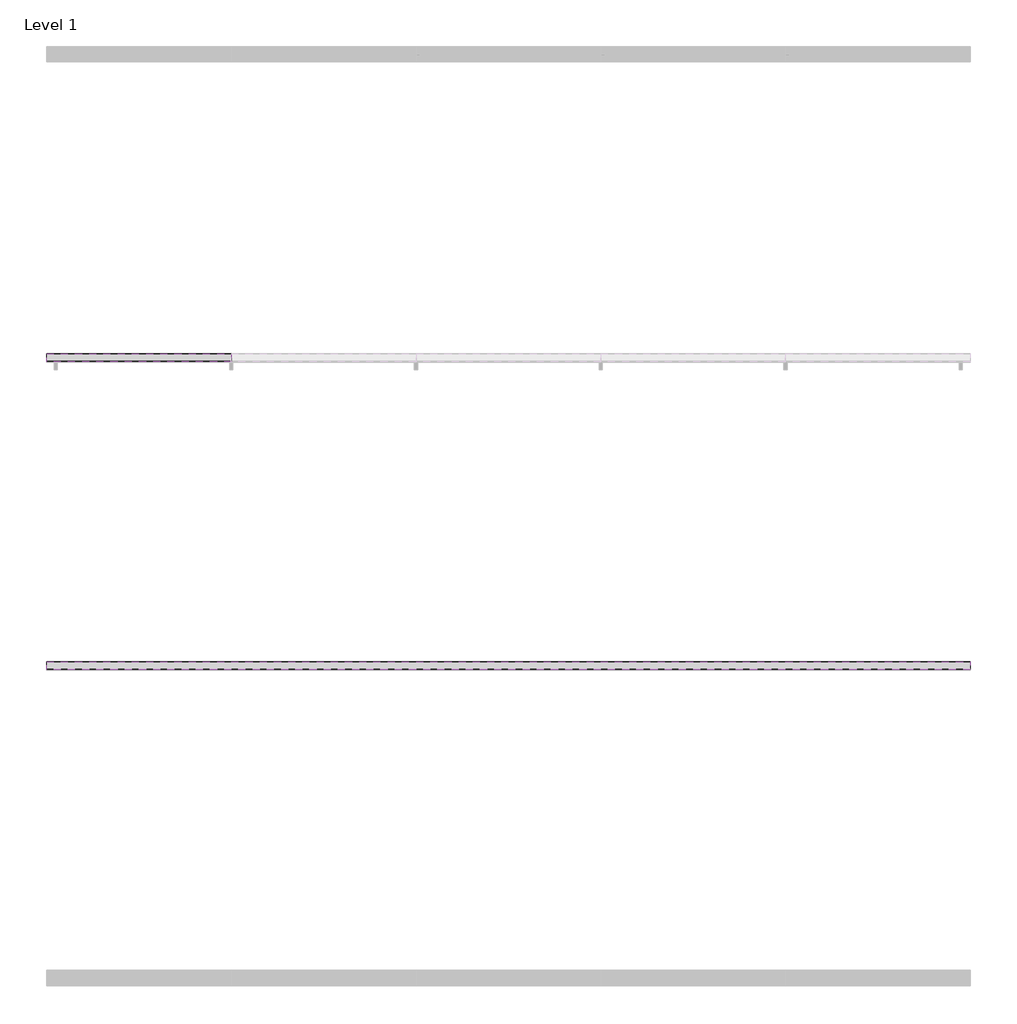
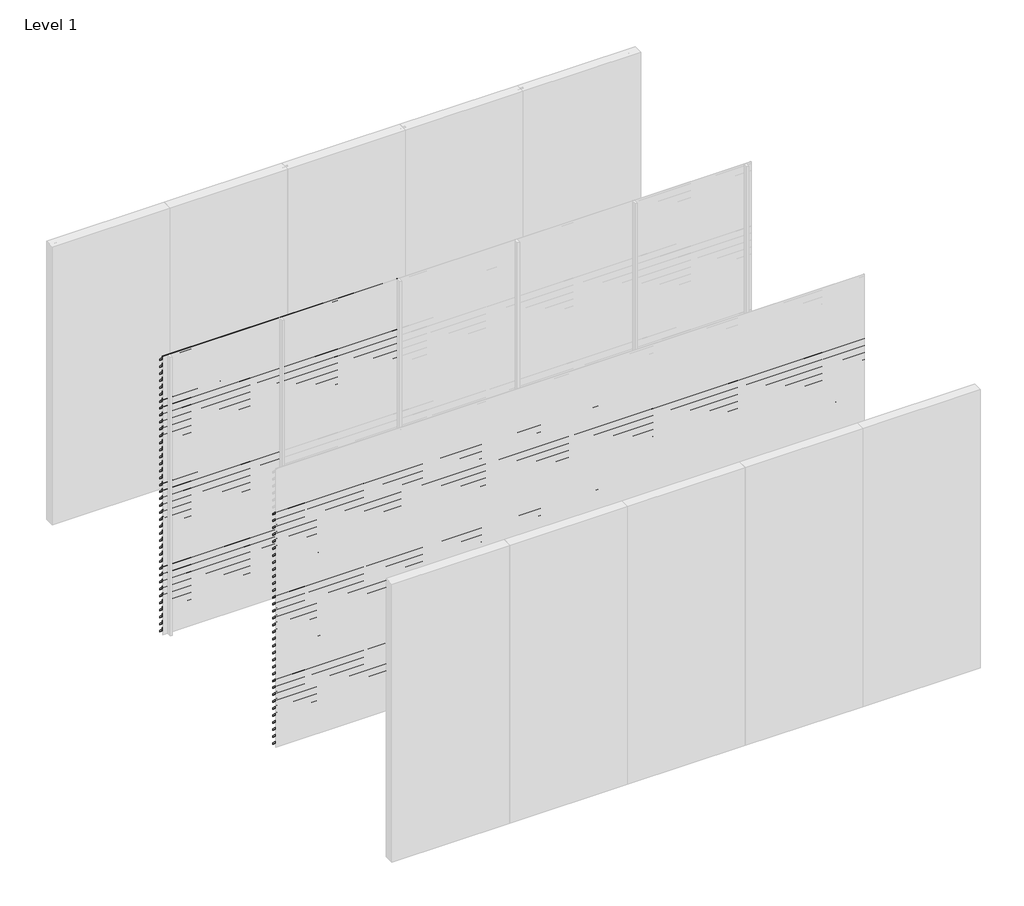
# One storey, part 7 of 11: 93 proxies.
"""IFC4 building model written with IfcOpenShell, lengths in millimetres."""

from ifc_helpers import new_model, si_unit, frame, origin, place, context, project, spatial, polyline, outline, extrude, element, save

model = new_model("IFC4")

# Units and contexts
model_context = context("Model", 3, world=origin())
ifc_project = project(units=[si_unit("LENGTHUNIT", "METRE", prefix="MILLI")], contexts=[model_context])

# Site, building, storey
site = spatial("IfcSite", under=ifc_project)
building = spatial("IfcBuilding", under=site)
storey = spatial("IfcBuildingStorey", under=building, Name="Level 1", Elevation=0.0)

# Proxies
placement = place(None, origin())
element("IfcBuildingElementProxy", 1, Name="Wall Sweeps", at=placement, inside=storey, context=model_context, shape_type="SweptSolid", body=[
    extrude(outline(polyline([(-5995.0, 3000.0), (-5995.0, 2990.7409854), (-5946.0, 2940.0), (-5946.0, 2924.0), (-5997.0, 2976.812046), (-5997.0, 3000.0), (-5995.0, 3000.0)])), frame((0.0, 0.0, 0.0), z_axis=(1.0, 0.0, 0.0), x_axis=(0.0, 1.0, 0.0)), (0.0, 0.0, 1.0), 1200.0),
])
element("IfcBuildingElementProxy", 2, Name="Wall Sweeps", at=placement, inside=storey, context=model_context, shape_type="SweptSolid", body=[
    extrude(outline(polyline([(-5995.0, 2925.0), (-5995.0, 2915.7409854), (-5946.0, 2865.0), (-5946.0, 2849.0), (-5997.0, 2901.812046), (-5997.0, 2925.0), (-5995.0, 2925.0)])), frame((0.0, 0.0, 0.0), z_axis=(1.0, 0.0, 0.0), x_axis=(0.0, 1.0, 0.0)), (0.0, 0.0, 1.0), 1200.0),
])
element("IfcBuildingElementProxy", 3, Name="Wall Sweeps", at=placement, inside=storey, context=model_context, shape_type="SweptSolid", body=[
    extrude(outline(polyline([(-5995.0, 2850.0), (-5995.0, 2840.7409854), (-5946.0, 2790.0), (-5946.0, 2774.0), (-5997.0, 2826.812046), (-5997.0, 2850.0), (-5995.0, 2850.0)])), frame((0.0, 0.0, 0.0), z_axis=(1.0, 0.0, 0.0), x_axis=(0.0, 1.0, 0.0)), (0.0, 0.0, 1.0), 1200.0),
])
element("IfcBuildingElementProxy", 4, Name="Wall Sweeps", at=placement, inside=storey, context=model_context, shape_type="SweptSolid", body=[
    extrude(outline(polyline([(-5995.0, 2775.0), (-5995.0, 2765.7409854), (-5946.0, 2715.0), (-5946.0, 2699.0), (-5997.0, 2751.812046), (-5997.0, 2775.0), (-5995.0, 2775.0)])), frame((0.0, 0.0, 0.0), z_axis=(1.0, 0.0, 0.0), x_axis=(0.0, 1.0, 0.0)), (0.0, 0.0, 1.0), 1200.0),
])
element("IfcBuildingElementProxy", 5, Name="Wall Sweeps", at=placement, inside=storey, context=model_context, shape_type="SweptSolid", body=[
    extrude(outline(polyline([(-5995.0, 2700.0), (-5995.0, 2690.7409854), (-5946.0, 2640.0), (-5946.0, 2624.0), (-5997.0, 2676.812046), (-5997.0, 2700.0), (-5995.0, 2700.0)])), frame((0.0, 0.0, 0.0), z_axis=(1.0, 0.0, 0.0), x_axis=(0.0, 1.0, 0.0)), (0.0, 0.0, 1.0), 1200.0),
])
element("IfcBuildingElementProxy", 6, Name="Wall Sweeps", at=placement, inside=storey, context=model_context, shape_type="SweptSolid", body=[
    extrude(outline(polyline([(-5995.0, 2625.0), (-5995.0, 2615.7409854), (-5946.0, 2565.0), (-5946.0, 2549.0), (-5997.0, 2601.812046), (-5997.0, 2625.0), (-5995.0, 2625.0)])), frame((0.0, 0.0, 0.0), z_axis=(1.0, 0.0, 0.0), x_axis=(0.0, 1.0, 0.0)), (0.0, 0.0, 1.0), 1200.0),
])
element("IfcBuildingElementProxy", 7, Name="Wall Sweeps", at=placement, inside=storey, context=model_context, shape_type="SweptSolid", body=[
    extrude(outline(polyline([(-5995.0, 2550.0), (-5995.0, 2540.7409854), (-5946.0, 2490.0), (-5946.0, 2474.0), (-5997.0, 2526.812046), (-5997.0, 2550.0), (-5995.0, 2550.0)])), frame((0.0, 0.0, 0.0), z_axis=(1.0, 0.0, 0.0), x_axis=(0.0, 1.0, 0.0)), (0.0, 0.0, 1.0), 1200.0),
])
element("IfcBuildingElementProxy", 8, Name="Wall Sweeps", at=placement, inside=storey, context=model_context, shape_type="SweptSolid", body=[
    extrude(outline(polyline([(-5995.0, 2475.0), (-5995.0, 2465.7409854), (-5946.0, 2415.0), (-5946.0, 2399.0), (-5997.0, 2451.812046), (-5997.0, 2475.0), (-5995.0, 2475.0)])), frame((0.0, 0.0, 0.0), z_axis=(1.0, 0.0, 0.0), x_axis=(0.0, 1.0, 0.0)), (0.0, 0.0, 1.0), 1200.0),
])
element("IfcBuildingElementProxy", 9, Name="Wall Sweeps", at=placement, inside=storey, context=model_context, shape_type="SweptSolid", body=[
    extrude(outline(polyline([(-5995.0, 2400.0), (-5995.0, 2390.7409854), (-5946.0, 2340.0), (-5946.0, 2324.0), (-5997.0, 2376.812046), (-5997.0, 2400.0), (-5995.0, 2400.0)])), frame((0.0, 0.0, 0.0), z_axis=(1.0, 0.0, 0.0), x_axis=(0.0, 1.0, 0.0)), (0.0, 0.0, 1.0), 1200.0),
])
element("IfcBuildingElementProxy", 10, Name="Wall Sweeps", at=placement, inside=storey, context=model_context, shape_type="SweptSolid", body=[
    extrude(outline(polyline([(-5995.0, 2325.0), (-5995.0, 2315.7409854), (-5946.0, 2265.0), (-5946.0, 2249.0), (-5997.0, 2301.812046), (-5997.0, 2325.0), (-5995.0, 2325.0)])), frame((0.0, 0.0, 0.0), z_axis=(1.0, 0.0, 0.0), x_axis=(0.0, 1.0, 0.0)), (0.0, 0.0, 1.0), 1200.0),
])
element("IfcBuildingElementProxy", 11, Name="Wall Sweeps", at=placement, inside=storey, context=model_context, shape_type="SweptSolid", body=[
    extrude(outline(polyline([(-5995.0, 2250.0), (-5995.0, 2240.7409854), (-5946.0, 2190.0), (-5946.0, 2174.0), (-5997.0, 2226.812046), (-5997.0, 2250.0), (-5995.0, 2250.0)])), frame((0.0, 0.0, 0.0), z_axis=(1.0, 0.0, 0.0), x_axis=(0.0, 1.0, 0.0)), (0.0, 0.0, 1.0), 1200.0),
])
element("IfcBuildingElementProxy", 12, Name="Wall Sweeps", at=placement, inside=storey, context=model_context, shape_type="SweptSolid", body=[
    extrude(outline(polyline([(-5995.0, 2175.0), (-5995.0, 2165.7409854), (-5946.0, 2115.0), (-5946.0, 2099.0), (-5997.0, 2151.812046), (-5997.0, 2175.0), (-5995.0, 2175.0)])), frame((0.0, 0.0, 0.0), z_axis=(1.0, 0.0, 0.0), x_axis=(0.0, 1.0, 0.0)), (0.0, 0.0, 1.0), 1200.0),
])
element("IfcBuildingElementProxy", 13, Name="Wall Sweeps", at=placement, inside=storey, context=model_context, shape_type="SweptSolid", body=[
    extrude(outline(polyline([(-5995.0, 2100.0), (-5995.0, 2090.7409854), (-5946.0, 2040.0), (-5946.0, 2024.0), (-5997.0, 2076.812046), (-5997.0, 2100.0), (-5995.0, 2100.0)])), frame((0.0, 0.0, 0.0), z_axis=(1.0, 0.0, 0.0), x_axis=(0.0, 1.0, 0.0)), (0.0, 0.0, 1.0), 1200.0),
])
element("IfcBuildingElementProxy", 14, Name="Wall Sweeps", at=placement, inside=storey, context=model_context, shape_type="SweptSolid", body=[
    extrude(outline(polyline([(-5995.0, 2025.0), (-5995.0, 2015.7409854), (-5946.0, 1965.0), (-5946.0, 1949.0), (-5997.0, 2001.812046), (-5997.0, 2025.0), (-5995.0, 2025.0)])), frame((0.0, 0.0, 0.0), z_axis=(1.0, 0.0, 0.0), x_axis=(0.0, 1.0, 0.0)), (0.0, 0.0, 1.0), 1200.0),
])
element("IfcBuildingElementProxy", 15, Name="Wall Sweeps", at=placement, inside=storey, context=model_context, shape_type="SweptSolid", body=[
    extrude(outline(polyline([(-5995.0, 1950.0), (-5995.0, 1940.7409854), (-5946.0, 1890.0), (-5946.0, 1874.0), (-5997.0, 1926.812046), (-5997.0, 1950.0), (-5995.0, 1950.0)])), frame((0.0, 0.0, 0.0), z_axis=(1.0, 0.0, 0.0), x_axis=(0.0, 1.0, 0.0)), (0.0, 0.0, 1.0), 1200.0),
])
element("IfcBuildingElementProxy", 16, Name="Wall Sweeps", at=placement, inside=storey, context=model_context, shape_type="SweptSolid", body=[
    extrude(outline(polyline([(-5995.0, 1875.0), (-5995.0, 1865.7409854), (-5946.0, 1815.0), (-5946.0, 1799.0), (-5997.0, 1851.812046), (-5997.0, 1875.0), (-5995.0, 1875.0)])), frame((0.0, 0.0, 0.0), z_axis=(1.0, 0.0, 0.0), x_axis=(0.0, 1.0, 0.0)), (0.0, 0.0, 1.0), 1200.0),
])
element("IfcBuildingElementProxy", 17, Name="Wall Sweeps", at=placement, inside=storey, context=model_context, shape_type="SweptSolid", body=[
    extrude(outline(polyline([(-5995.0, 1800.0), (-5995.0, 1790.7409854), (-5946.0, 1740.0), (-5946.0, 1724.0), (-5997.0, 1776.812046), (-5997.0, 1800.0), (-5995.0, 1800.0)])), frame((0.0, 0.0, 0.0), z_axis=(1.0, 0.0, 0.0), x_axis=(0.0, 1.0, 0.0)), (0.0, 0.0, 1.0), 1200.0),
])
element("IfcBuildingElementProxy", 18, Name="Wall Sweeps", at=placement, inside=storey, context=model_context, shape_type="SweptSolid", body=[
    extrude(outline(polyline([(-5995.0, 1725.0), (-5995.0, 1715.7409854), (-5946.0, 1665.0), (-5946.0, 1649.0), (-5997.0, 1701.812046), (-5997.0, 1725.0), (-5995.0, 1725.0)])), frame((0.0, 0.0, 0.0), z_axis=(1.0, 0.0, 0.0), x_axis=(0.0, 1.0, 0.0)), (0.0, 0.0, 1.0), 1200.0),
])
element("IfcBuildingElementProxy", 19, Name="Wall Sweeps", at=placement, inside=storey, context=model_context, shape_type="SweptSolid", body=[
    extrude(outline(polyline([(-5995.0, 1650.0), (-5995.0, 1640.7409854), (-5946.0, 1590.0), (-5946.0, 1574.0), (-5997.0, 1626.812046), (-5997.0, 1650.0), (-5995.0, 1650.0)])), frame((0.0, 0.0, 0.0), z_axis=(1.0, 0.0, 0.0), x_axis=(0.0, 1.0, 0.0)), (0.0, 0.0, 1.0), 1200.0),
])
element("IfcBuildingElementProxy", 20, Name="Wall Sweeps", at=placement, inside=storey, context=model_context, shape_type="SweptSolid", body=[
    extrude(outline(polyline([(-5995.0, 1575.0), (-5995.0, 1565.7409854), (-5946.0, 1515.0), (-5946.0, 1499.0), (-5997.0, 1551.812046), (-5997.0, 1575.0), (-5995.0, 1575.0)])), frame((0.0, 0.0, 0.0), z_axis=(1.0, 0.0, 0.0), x_axis=(0.0, 1.0, 0.0)), (0.0, 0.0, 1.0), 1200.0),
])
element("IfcBuildingElementProxy", 21, Name="Wall Sweeps", at=placement, inside=storey, context=model_context, shape_type="SweptSolid", body=[
    extrude(outline(polyline([(-5995.0, 1500.0), (-5995.0, 1490.7409854), (-5946.0, 1440.0), (-5946.0, 1424.0), (-5997.0, 1476.812046), (-5997.0, 1500.0), (-5995.0, 1500.0)])), frame((0.0, 0.0, 0.0), z_axis=(1.0, 0.0, 0.0), x_axis=(0.0, 1.0, 0.0)), (0.0, 0.0, 1.0), 1200.0),
])
element("IfcBuildingElementProxy", 22, Name="Wall Sweeps", at=placement, inside=storey, context=model_context, shape_type="SweptSolid", body=[
    extrude(outline(polyline([(-5995.0, 1425.0), (-5995.0, 1415.7409854), (-5946.0, 1365.0), (-5946.0, 1349.0), (-5997.0, 1401.812046), (-5997.0, 1425.0), (-5995.0, 1425.0)])), frame((0.0, 0.0, 0.0), z_axis=(1.0, 0.0, 0.0), x_axis=(0.0, 1.0, 0.0)), (0.0, 0.0, 1.0), 1200.0),
])
element("IfcBuildingElementProxy", 23, Name="Wall Sweeps", at=placement, inside=storey, context=model_context, shape_type="SweptSolid", body=[
    extrude(outline(polyline([(-5995.0, 1350.0), (-5995.0, 1340.7409854), (-5946.0, 1290.0), (-5946.0, 1274.0), (-5997.0, 1326.812046), (-5997.0, 1350.0), (-5995.0, 1350.0)])), frame((0.0, 0.0, 0.0), z_axis=(1.0, 0.0, 0.0), x_axis=(0.0, 1.0, 0.0)), (0.0, 0.0, 1.0), 1200.0),
])
element("IfcBuildingElementProxy", 24, Name="Wall Sweeps", at=placement, inside=storey, context=model_context, shape_type="SweptSolid", body=[
    extrude(outline(polyline([(-5995.0, 1275.0), (-5995.0, 1265.7409854), (-5946.0, 1215.0), (-5946.0, 1199.0), (-5997.0, 1251.812046), (-5997.0, 1275.0), (-5995.0, 1275.0)])), frame((0.0, 0.0, 0.0), z_axis=(1.0, 0.0, 0.0), x_axis=(0.0, 1.0, 0.0)), (0.0, 0.0, 1.0), 1200.0),
])
element("IfcBuildingElementProxy", 25, Name="Wall Sweeps", at=placement, inside=storey, context=model_context, shape_type="SweptSolid", body=[
    extrude(outline(polyline([(-5995.0, 1200.0), (-5995.0, 1190.7409854), (-5946.0, 1140.0), (-5946.0, 1124.0), (-5997.0, 1176.812046), (-5997.0, 1200.0), (-5995.0, 1200.0)])), frame((0.0, 0.0, 0.0), z_axis=(1.0, 0.0, 0.0), x_axis=(0.0, 1.0, 0.0)), (0.0, 0.0, 1.0), 1200.0),
])
element("IfcBuildingElementProxy", 26, Name="Wall Sweeps", at=placement, inside=storey, context=model_context, shape_type="SweptSolid", body=[
    extrude(outline(polyline([(-5995.0, 1125.0), (-5995.0, 1115.7409854), (-5946.0, 1065.0), (-5946.0, 1049.0), (-5997.0, 1101.812046), (-5997.0, 1125.0), (-5995.0, 1125.0)])), frame((0.0, 0.0, 0.0), z_axis=(1.0, 0.0, 0.0), x_axis=(0.0, 1.0, 0.0)), (0.0, 0.0, 1.0), 1200.0),
])
element("IfcBuildingElementProxy", 27, Name="Wall Sweeps", at=placement, inside=storey, context=model_context, shape_type="SweptSolid", body=[
    extrude(outline(polyline([(-5995.0, 1050.0), (-5995.0, 1040.7409854), (-5946.0, 990.0), (-5946.0, 974.0), (-5997.0, 1026.812046), (-5997.0, 1050.0), (-5995.0, 1050.0)])), frame((0.0, 0.0, 0.0), z_axis=(1.0, 0.0, 0.0), x_axis=(0.0, 1.0, 0.0)), (0.0, 0.0, 1.0), 1200.0),
])
element("IfcBuildingElementProxy", 28, Name="Wall Sweeps", at=placement, inside=storey, context=model_context, shape_type="SweptSolid", body=[
    extrude(outline(polyline([(-5995.0, 975.0), (-5995.0, 965.7409854), (-5946.0, 915.0), (-5946.0, 899.0), (-5997.0, 951.812046), (-5997.0, 975.0), (-5995.0, 975.0)])), frame((0.0, 0.0, 0.0), z_axis=(1.0, 0.0, 0.0), x_axis=(0.0, 1.0, 0.0)), (0.0, 0.0, 1.0), 1200.0),
])
element("IfcBuildingElementProxy", 29, Name="Wall Sweeps", at=placement, inside=storey, context=model_context, shape_type="SweptSolid", body=[
    extrude(outline(polyline([(-5995.0, 900.0), (-5995.0, 890.7409854), (-5946.0, 840.0), (-5946.0, 824.0), (-5997.0, 876.812046), (-5997.0, 900.0), (-5995.0, 900.0)])), frame((0.0, 0.0, 0.0), z_axis=(1.0, 0.0, 0.0), x_axis=(0.0, 1.0, 0.0)), (0.0, 0.0, 1.0), 1200.0),
])
element("IfcBuildingElementProxy", 30, Name="Wall Sweeps", at=placement, inside=storey, context=model_context, shape_type="SweptSolid", body=[
    extrude(outline(polyline([(-5995.0, 825.0), (-5995.0, 815.7409854), (-5946.0, 765.0), (-5946.0, 749.0), (-5997.0, 801.812046), (-5997.0, 825.0), (-5995.0, 825.0)])), frame((0.0, 0.0, 0.0), z_axis=(1.0, 0.0, 0.0), x_axis=(0.0, 1.0, 0.0)), (0.0, 0.0, 1.0), 1200.0),
])
element("IfcBuildingElementProxy", 31, Name="Wall Sweeps", at=placement, inside=storey, context=model_context, shape_type="SweptSolid", body=[
    extrude(outline(polyline([(-5995.0, 750.0), (-5995.0, 740.7409854), (-5946.0, 690.0), (-5946.0, 674.0), (-5997.0, 726.812046), (-5997.0, 750.0), (-5995.0, 750.0)])), frame((0.0, 0.0, 0.0), z_axis=(1.0, 0.0, 0.0), x_axis=(0.0, 1.0, 0.0)), (0.0, 0.0, 1.0), 1200.0),
])
element("IfcBuildingElementProxy", 32, Name="Wall Sweeps", at=placement, inside=storey, context=model_context, shape_type="SweptSolid", body=[
    extrude(outline(polyline([(-5995.0, 675.0), (-5995.0, 665.7409854), (-5946.0, 615.0), (-5946.0, 599.0), (-5997.0, 651.812046), (-5997.0, 675.0), (-5995.0, 675.0)])), frame((0.0, 0.0, 0.0), z_axis=(1.0, 0.0, 0.0), x_axis=(0.0, 1.0, 0.0)), (0.0, 0.0, 1.0), 1200.0),
])
element("IfcBuildingElementProxy", 33, Name="Wall Sweeps", at=placement, inside=storey, context=model_context, shape_type="SweptSolid", body=[
    extrude(outline(polyline([(-5995.0, 600.0), (-5995.0, 590.7409854), (-5946.0, 540.0), (-5946.0, 524.0), (-5997.0, 576.812046), (-5997.0, 600.0), (-5995.0, 600.0)])), frame((0.0, 0.0, 0.0), z_axis=(1.0, 0.0, 0.0), x_axis=(0.0, 1.0, 0.0)), (0.0, 0.0, 1.0), 1200.0),
])
element("IfcBuildingElementProxy", 34, Name="Wall Sweeps", at=placement, inside=storey, context=model_context, shape_type="SweptSolid", body=[
    extrude(outline(polyline([(-5995.0, 525.0), (-5995.0, 515.7409854), (-5946.0, 465.0), (-5946.0, 449.0), (-5997.0, 501.812046), (-5997.0, 525.0), (-5995.0, 525.0)])), frame((0.0, 0.0, 0.0), z_axis=(1.0, 0.0, 0.0), x_axis=(0.0, 1.0, 0.0)), (0.0, 0.0, 1.0), 1200.0),
])
element("IfcBuildingElementProxy", 35, Name="Wall Sweeps", at=placement, inside=storey, context=model_context, shape_type="SweptSolid", body=[
    extrude(outline(polyline([(-5995.0, 450.0), (-5995.0, 440.7409854), (-5946.0, 390.0), (-5946.0, 374.0), (-5997.0, 426.812046), (-5997.0, 450.0), (-5995.0, 450.0)])), frame((0.0, 0.0, 0.0), z_axis=(1.0, 0.0, 0.0), x_axis=(0.0, 1.0, 0.0)), (0.0, 0.0, 1.0), 1200.0),
])
element("IfcBuildingElementProxy", 36, Name="Wall Sweeps", at=placement, inside=storey, context=model_context, shape_type="SweptSolid", body=[
    extrude(outline(polyline([(-5995.0, 375.0), (-5995.0, 365.7409854), (-5946.0, 315.0), (-5946.0, 299.0), (-5997.0, 351.812046), (-5997.0, 375.0), (-5995.0, 375.0)])), frame((0.0, 0.0, 0.0), z_axis=(1.0, 0.0, 0.0), x_axis=(0.0, 1.0, 0.0)), (0.0, 0.0, 1.0), 1200.0),
])
element("IfcBuildingElementProxy", 37, Name="Wall Sweeps", at=placement, inside=storey, context=model_context, shape_type="SweptSolid", body=[
    extrude(outline(polyline([(-5995.0, 300.0), (-5995.0, 290.7409854), (-5946.0, 240.0), (-5946.0, 224.0), (-5997.0, 276.812046), (-5997.0, 300.0), (-5995.0, 300.0)])), frame((0.0, 0.0, 0.0), z_axis=(1.0, 0.0, 0.0), x_axis=(0.0, 1.0, 0.0)), (0.0, 0.0, 1.0), 1200.0),
])
element("IfcBuildingElementProxy", 38, Name="Wall Sweeps", at=placement, inside=storey, context=model_context, shape_type="SweptSolid", body=[
    extrude(outline(polyline([(-5995.0, 225.0), (-5995.0, 215.7409854), (-5946.0, 165.0), (-5946.0, 149.0), (-5997.0, 201.812046), (-5997.0, 225.0), (-5995.0, 225.0)])), frame((0.0, 0.0, 0.0), z_axis=(1.0, 0.0, 0.0), x_axis=(0.0, 1.0, 0.0)), (0.0, 0.0, 1.0), 1200.0),
])
element("IfcBuildingElementProxy", 39, Name="Wall Sweeps", at=placement, inside=storey, context=model_context, shape_type="SweptSolid", body=[
    extrude(outline(polyline([(-5995.0, 150.0), (-5995.0, 140.7409854), (-5946.0, 90.0), (-5946.0, 74.0), (-5997.0, 126.812046), (-5997.0, 150.0), (-5995.0, 150.0)])), frame((0.0, 0.0, 0.0), z_axis=(1.0, 0.0, 0.0), x_axis=(0.0, 1.0, 0.0)), (0.0, 0.0, 1.0), 1200.0),
])
element("IfcBuildingElementProxy", 40, Name="Wall Sweeps", at=placement, inside=storey, context=model_context, shape_type="SweptSolid", body=[
    extrude(outline(polyline([(-5995.0, 75.0), (-5995.0, 65.7409854), (-5946.0, 15.0), (-5946.0, -1.0), (-5997.0, 51.812046), (-5997.0, 75.0), (-5995.0, 75.0)])), frame((0.0, 0.0, 0.0), z_axis=(1.0, 0.0, 0.0), x_axis=(0.0, 1.0, 0.0)), (0.0, 0.0, 1.0), 1200.0),
])
element("IfcBuildingElementProxy", 41, Name="Wall Sweeps", at=placement, inside=storey, context=model_context, shape_type="SweptSolid", body=[
    extrude(outline(polyline([(-5995.0, 3000.0), (-5995.0, 2990.7409854), (-5946.0, 2940.0), (-5946.0, 2924.0), (-5997.0, 2976.812046), (-5997.0, 3000.0), (-5995.0, 3000.0)])), frame((1200.0, 0.0, 0.0), z_axis=(1.0, 0.0, 0.0), x_axis=(0.0, 1.0, 0.0)), (0.0, 0.0, 1.0), 1200.0),
])
element("IfcBuildingElementProxy", 42, Name="Wall Sweeps", at=placement, inside=storey, context=model_context, shape_type="SweptSolid", body=[
    extrude(outline(polyline([(-5995.0, 2925.0), (-5995.0, 2915.7409854), (-5946.0, 2865.0), (-5946.0, 2849.0), (-5997.0, 2901.812046), (-5997.0, 2925.0), (-5995.0, 2925.0)])), frame((1200.0, 0.0, 0.0), z_axis=(1.0, 0.0, 0.0), x_axis=(0.0, 1.0, 0.0)), (0.0, 0.0, 1.0), 1200.0),
])
element("IfcBuildingElementProxy", 43, Name="Wall Sweeps", at=placement, inside=storey, context=model_context, shape_type="SweptSolid", body=[
    extrude(outline(polyline([(-5995.0, 2850.0), (-5995.0, 2840.7409854), (-5946.0, 2790.0), (-5946.0, 2774.0), (-5997.0, 2826.812046), (-5997.0, 2850.0), (-5995.0, 2850.0)])), frame((1200.0, 0.0, 0.0), z_axis=(1.0, 0.0, 0.0), x_axis=(0.0, 1.0, 0.0)), (0.0, 0.0, 1.0), 1200.0),
])
element("IfcBuildingElementProxy", 44, Name="Wall Sweeps", at=placement, inside=storey, context=model_context, shape_type="SweptSolid", body=[
    extrude(outline(polyline([(-5995.0, 2775.0), (-5995.0, 2765.7409854), (-5946.0, 2715.0), (-5946.0, 2699.0), (-5997.0, 2751.812046), (-5997.0, 2775.0), (-5995.0, 2775.0)])), frame((1200.0, 0.0, 0.0), z_axis=(1.0, 0.0, 0.0), x_axis=(0.0, 1.0, 0.0)), (0.0, 0.0, 1.0), 1200.0),
])
element("IfcBuildingElementProxy", 45, Name="Wall Sweeps", at=placement, inside=storey, context=model_context, shape_type="SweptSolid", body=[
    extrude(outline(polyline([(-5995.0, 2700.0), (-5995.0, 2690.7409854), (-5946.0, 2640.0), (-5946.0, 2624.0), (-5997.0, 2676.812046), (-5997.0, 2700.0), (-5995.0, 2700.0)])), frame((1200.0, 0.0, 0.0), z_axis=(1.0, 0.0, 0.0), x_axis=(0.0, 1.0, 0.0)), (0.0, 0.0, 1.0), 1200.0),
])
element("IfcBuildingElementProxy", 46, Name="Wall Sweeps", at=placement, inside=storey, context=model_context, shape_type="SweptSolid", body=[
    extrude(outline(polyline([(-5995.0, 2625.0), (-5995.0, 2615.7409854), (-5946.0, 2565.0), (-5946.0, 2549.0), (-5997.0, 2601.812046), (-5997.0, 2625.0), (-5995.0, 2625.0)])), frame((1200.0, 0.0, 0.0), z_axis=(1.0, 0.0, 0.0), x_axis=(0.0, 1.0, 0.0)), (0.0, 0.0, 1.0), 1200.0),
])
element("IfcBuildingElementProxy", 47, Name="Wall Sweeps", at=placement, inside=storey, context=model_context, shape_type="SweptSolid", body=[
    extrude(outline(polyline([(-5995.0, 2550.0), (-5995.0, 2540.7409854), (-5946.0, 2490.0), (-5946.0, 2474.0), (-5997.0, 2526.812046), (-5997.0, 2550.0), (-5995.0, 2550.0)])), frame((1200.0, 0.0, 0.0), z_axis=(1.0, 0.0, 0.0), x_axis=(0.0, 1.0, 0.0)), (0.0, 0.0, 1.0), 1200.0),
])
element("IfcBuildingElementProxy", 48, Name="Wall Sweeps", at=placement, inside=storey, context=model_context, shape_type="SweptSolid", body=[
    extrude(outline(polyline([(-5995.0, 2475.0), (-5995.0, 2465.7409854), (-5946.0, 2415.0), (-5946.0, 2399.0), (-5997.0, 2451.812046), (-5997.0, 2475.0), (-5995.0, 2475.0)])), frame((1200.0, 0.0, 0.0), z_axis=(1.0, 0.0, 0.0), x_axis=(0.0, 1.0, 0.0)), (0.0, 0.0, 1.0), 1200.0),
])
element("IfcBuildingElementProxy", 49, Name="Wall Sweeps", at=placement, inside=storey, context=model_context, shape_type="SweptSolid", body=[
    extrude(outline(polyline([(-5995.0, 2400.0), (-5995.0, 2390.7409854), (-5946.0, 2340.0), (-5946.0, 2324.0), (-5997.0, 2376.812046), (-5997.0, 2400.0), (-5995.0, 2400.0)])), frame((1200.0, 0.0, 0.0), z_axis=(1.0, 0.0, 0.0), x_axis=(0.0, 1.0, 0.0)), (0.0, 0.0, 1.0), 1200.0),
])
element("IfcBuildingElementProxy", 50, Name="Wall Sweeps", at=placement, inside=storey, context=model_context, shape_type="SweptSolid", body=[
    extrude(outline(polyline([(-5995.0, 2325.0), (-5995.0, 2315.7409854), (-5946.0, 2265.0), (-5946.0, 2249.0), (-5997.0, 2301.812046), (-5997.0, 2325.0), (-5995.0, 2325.0)])), frame((1200.0, 0.0, 0.0), z_axis=(1.0, 0.0, 0.0), x_axis=(0.0, 1.0, 0.0)), (0.0, 0.0, 1.0), 1200.0),
])
element("IfcBuildingElementProxy", 51, Name="Wall Sweeps", at=placement, inside=storey, context=model_context, shape_type="SweptSolid", body=[
    extrude(outline(polyline([(-5995.0, 2250.0), (-5995.0, 2240.7409854), (-5946.0, 2190.0), (-5946.0, 2174.0), (-5997.0, 2226.812046), (-5997.0, 2250.0), (-5995.0, 2250.0)])), frame((1200.0, 0.0, 0.0), z_axis=(1.0, 0.0, 0.0), x_axis=(0.0, 1.0, 0.0)), (0.0, 0.0, 1.0), 1200.0),
])
element("IfcBuildingElementProxy", 52, Name="Wall Sweeps", at=placement, inside=storey, context=model_context, shape_type="SweptSolid", body=[
    extrude(outline(polyline([(-5995.0, 2175.0), (-5995.0, 2165.7409854), (-5946.0, 2115.0), (-5946.0, 2099.0), (-5997.0, 2151.812046), (-5997.0, 2175.0), (-5995.0, 2175.0)])), frame((1200.0, 0.0, 0.0), z_axis=(1.0, 0.0, 0.0), x_axis=(0.0, 1.0, 0.0)), (0.0, 0.0, 1.0), 1200.0),
])
element("IfcBuildingElementProxy", 53, Name="Wall Sweeps", at=placement, inside=storey, context=model_context, shape_type="SweptSolid", body=[
    extrude(outline(polyline([(-5995.0, 2100.0), (-5995.0, 2090.7409854), (-5946.0, 2040.0), (-5946.0, 2024.0), (-5997.0, 2076.812046), (-5997.0, 2100.0), (-5995.0, 2100.0)])), frame((1200.0, 0.0, 0.0), z_axis=(1.0, 0.0, 0.0), x_axis=(0.0, 1.0, 0.0)), (0.0, 0.0, 1.0), 1200.0),
])
element("IfcBuildingElementProxy", 54, Name="Wall Sweeps", at=placement, inside=storey, context=model_context, shape_type="SweptSolid", body=[
    extrude(outline(polyline([(-5995.0, 2025.0), (-5995.0, 2015.7409854), (-5946.0, 1965.0), (-5946.0, 1949.0), (-5997.0, 2001.812046), (-5997.0, 2025.0), (-5995.0, 2025.0)])), frame((1200.0, 0.0, 0.0), z_axis=(1.0, 0.0, 0.0), x_axis=(0.0, 1.0, 0.0)), (0.0, 0.0, 1.0), 1200.0),
])
element("IfcBuildingElementProxy", 55, Name="Wall Sweeps", at=placement, inside=storey, context=model_context, shape_type="SweptSolid", body=[
    extrude(outline(polyline([(-5995.0, 1950.0), (-5995.0, 1940.7409854), (-5946.0, 1890.0), (-5946.0, 1874.0), (-5997.0, 1926.812046), (-5997.0, 1950.0), (-5995.0, 1950.0)])), frame((1200.0, 0.0, 0.0), z_axis=(1.0, 0.0, 0.0), x_axis=(0.0, 1.0, 0.0)), (0.0, 0.0, 1.0), 1200.0),
])
element("IfcBuildingElementProxy", 56, Name="Wall Sweeps", at=placement, inside=storey, context=model_context, shape_type="SweptSolid", body=[
    extrude(outline(polyline([(-5995.0, 1875.0), (-5995.0, 1865.7409854), (-5946.0, 1815.0), (-5946.0, 1799.0), (-5997.0, 1851.812046), (-5997.0, 1875.0), (-5995.0, 1875.0)])), frame((1200.0, 0.0, 0.0), z_axis=(1.0, 0.0, 0.0), x_axis=(0.0, 1.0, 0.0)), (0.0, 0.0, 1.0), 1200.0),
])
element("IfcBuildingElementProxy", 57, Name="Wall Sweeps", at=placement, inside=storey, context=model_context, shape_type="SweptSolid", body=[
    extrude(outline(polyline([(-5995.0, 1800.0), (-5995.0, 1790.7409854), (-5946.0, 1740.0), (-5946.0, 1724.0), (-5997.0, 1776.812046), (-5997.0, 1800.0), (-5995.0, 1800.0)])), frame((1200.0, 0.0, 0.0), z_axis=(1.0, 0.0, 0.0), x_axis=(0.0, 1.0, 0.0)), (0.0, 0.0, 1.0), 1200.0),
])
element("IfcBuildingElementProxy", 58, Name="Wall Sweeps", at=placement, inside=storey, context=model_context, shape_type="SweptSolid", body=[
    extrude(outline(polyline([(-5995.0, 1725.0), (-5995.0, 1715.7409854), (-5946.0, 1665.0), (-5946.0, 1649.0), (-5997.0, 1701.812046), (-5997.0, 1725.0), (-5995.0, 1725.0)])), frame((1200.0, 0.0, 0.0), z_axis=(1.0, 0.0, 0.0), x_axis=(0.0, 1.0, 0.0)), (0.0, 0.0, 1.0), 1200.0),
])
element("IfcBuildingElementProxy", 59, Name="Wall Sweeps", at=placement, inside=storey, context=model_context, shape_type="SweptSolid", body=[
    extrude(outline(polyline([(-5995.0, 1650.0), (-5995.0, 1640.7409854), (-5946.0, 1590.0), (-5946.0, 1574.0), (-5997.0, 1626.812046), (-5997.0, 1650.0), (-5995.0, 1650.0)])), frame((1200.0, 0.0, 0.0), z_axis=(1.0, 0.0, 0.0), x_axis=(0.0, 1.0, 0.0)), (0.0, 0.0, 1.0), 1200.0),
])
element("IfcBuildingElementProxy", 60, Name="Wall Sweeps", at=placement, inside=storey, context=model_context, shape_type="SweptSolid", body=[
    extrude(outline(polyline([(-7995.0, 2550.0), (-7995.0, 2540.7409854), (-7946.0, 2490.0), (-7946.0, 2474.0), (-7997.0, 2526.812046), (-7997.0, 2550.0), (-7995.0, 2550.0)])), frame((0.0, 0.0, 0.0), z_axis=(1.0, 0.0, 0.0), x_axis=(0.0, 1.0, 0.0)), (0.0, 0.0, 1.0), 6000.0),
])
element("IfcBuildingElementProxy", 61, Name="Wall Sweeps", at=placement, inside=storey, context=model_context, shape_type="SweptSolid", body=[
    extrude(outline(polyline([(-7995.0, 2475.0), (-7995.0, 2465.7409854), (-7946.0, 2415.0), (-7946.0, 2399.0), (-7997.0, 2451.812046), (-7997.0, 2475.0), (-7995.0, 2475.0)])), frame((0.0, 0.0, 0.0), z_axis=(1.0, 0.0, 0.0), x_axis=(0.0, 1.0, 0.0)), (0.0, 0.0, 1.0), 6000.0),
])
element("IfcBuildingElementProxy", 62, Name="Wall Sweeps", at=placement, inside=storey, context=model_context, shape_type="SweptSolid", body=[
    extrude(outline(polyline([(-7995.0, 2400.0), (-7995.0, 2390.7409854), (-7946.0, 2340.0), (-7946.0, 2324.0), (-7997.0, 2376.812046), (-7997.0, 2400.0), (-7995.0, 2400.0)])), frame((0.0, 0.0, 0.0), z_axis=(1.0, 0.0, 0.0), x_axis=(0.0, 1.0, 0.0)), (0.0, 0.0, 1.0), 6000.0),
])
element("IfcBuildingElementProxy", 63, Name="Wall Sweeps", at=placement, inside=storey, context=model_context, shape_type="SweptSolid", body=[
    extrude(outline(polyline([(-7995.0, 2325.0), (-7995.0, 2315.7409854), (-7946.0, 2265.0), (-7946.0, 2249.0), (-7997.0, 2301.812046), (-7997.0, 2325.0), (-7995.0, 2325.0)])), frame((0.0, 0.0, 0.0), z_axis=(1.0, 0.0, 0.0), x_axis=(0.0, 1.0, 0.0)), (0.0, 0.0, 1.0), 6000.0),
])
element("IfcBuildingElementProxy", 64, Name="Wall Sweeps", at=placement, inside=storey, context=model_context, shape_type="SweptSolid", body=[
    extrude(outline(polyline([(-7995.0, 2250.0), (-7995.0, 2240.7409854), (-7946.0, 2190.0), (-7946.0, 2174.0), (-7997.0, 2226.812046), (-7997.0, 2250.0), (-7995.0, 2250.0)])), frame((0.0, 0.0, 0.0), z_axis=(1.0, 0.0, 0.0), x_axis=(0.0, 1.0, 0.0)), (0.0, 0.0, 1.0), 6000.0),
])
element("IfcBuildingElementProxy", 65, Name="Wall Sweeps", at=placement, inside=storey, context=model_context, shape_type="SweptSolid", body=[
    extrude(outline(polyline([(-7995.0, 2175.0), (-7995.0, 2165.7409854), (-7946.0, 2115.0), (-7946.0, 2099.0), (-7997.0, 2151.812046), (-7997.0, 2175.0), (-7995.0, 2175.0)])), frame((0.0, 0.0, 0.0), z_axis=(1.0, 0.0, 0.0), x_axis=(0.0, 1.0, 0.0)), (0.0, 0.0, 1.0), 6000.0),
])
element("IfcBuildingElementProxy", 66, Name="Wall Sweeps", at=placement, inside=storey, context=model_context, shape_type="SweptSolid", body=[
    extrude(outline(polyline([(-7995.0, 2100.0), (-7995.0, 2090.7409854), (-7946.0, 2040.0), (-7946.0, 2024.0), (-7997.0, 2076.812046), (-7997.0, 2100.0), (-7995.0, 2100.0)])), frame((0.0, 0.0, 0.0), z_axis=(1.0, 0.0, 0.0), x_axis=(0.0, 1.0, 0.0)), (0.0, 0.0, 1.0), 6000.0),
])
element("IfcBuildingElementProxy", 67, Name="Wall Sweeps", at=placement, inside=storey, context=model_context, shape_type="SweptSolid", body=[
    extrude(outline(polyline([(-7995.0, 2025.0), (-7995.0, 2015.7409854), (-7946.0, 1965.0), (-7946.0, 1949.0), (-7997.0, 2001.812046), (-7997.0, 2025.0), (-7995.0, 2025.0)])), frame((0.0, 0.0, 0.0), z_axis=(1.0, 0.0, 0.0), x_axis=(0.0, 1.0, 0.0)), (0.0, 0.0, 1.0), 6000.0),
])
element("IfcBuildingElementProxy", 68, Name="Wall Sweeps", at=placement, inside=storey, context=model_context, shape_type="SweptSolid", body=[
    extrude(outline(polyline([(-7995.0, 1950.0), (-7995.0, 1940.7409854), (-7946.0, 1890.0), (-7946.0, 1874.0), (-7997.0, 1926.812046), (-7997.0, 1950.0), (-7995.0, 1950.0)])), frame((0.0, 0.0, 0.0), z_axis=(1.0, 0.0, 0.0), x_axis=(0.0, 1.0, 0.0)), (0.0, 0.0, 1.0), 6000.0),
])
element("IfcBuildingElementProxy", 69, Name="Wall Sweeps", at=placement, inside=storey, context=model_context, shape_type="SweptSolid", body=[
    extrude(outline(polyline([(-7995.0, 1875.0), (-7995.0, 1865.7409854), (-7946.0, 1815.0), (-7946.0, 1799.0), (-7997.0, 1851.812046), (-7997.0, 1875.0), (-7995.0, 1875.0)])), frame((0.0, 0.0, 0.0), z_axis=(1.0, 0.0, 0.0), x_axis=(0.0, 1.0, 0.0)), (0.0, 0.0, 1.0), 6000.0),
])
element("IfcBuildingElementProxy", 70, Name="Wall Sweeps", at=placement, inside=storey, context=model_context, shape_type="SweptSolid", body=[
    extrude(outline(polyline([(-7995.0, 1800.0), (-7995.0, 1790.7409854), (-7946.0, 1740.0), (-7946.0, 1724.0), (-7997.0, 1776.812046), (-7997.0, 1800.0), (-7995.0, 1800.0)])), frame((0.0, 0.0, 0.0), z_axis=(1.0, 0.0, 0.0), x_axis=(0.0, 1.0, 0.0)), (0.0, 0.0, 1.0), 6000.0),
])
element("IfcBuildingElementProxy", 71, Name="Wall Sweeps", at=placement, inside=storey, context=model_context, shape_type="SweptSolid", body=[
    extrude(outline(polyline([(-7995.0, 1725.0), (-7995.0, 1715.7409854), (-7946.0, 1665.0), (-7946.0, 1649.0), (-7997.0, 1701.812046), (-7997.0, 1725.0), (-7995.0, 1725.0)])), frame((0.0, 0.0, 0.0), z_axis=(1.0, 0.0, 0.0), x_axis=(0.0, 1.0, 0.0)), (0.0, 0.0, 1.0), 6000.0),
])
element("IfcBuildingElementProxy", 72, Name="Wall Sweeps", at=placement, inside=storey, context=model_context, shape_type="SweptSolid", body=[
    extrude(outline(polyline([(-7995.0, 1650.0), (-7995.0, 1640.7409854), (-7946.0, 1590.0), (-7946.0, 1574.0), (-7997.0, 1626.812046), (-7997.0, 1650.0), (-7995.0, 1650.0)])), frame((0.0, 0.0, 0.0), z_axis=(1.0, 0.0, 0.0), x_axis=(0.0, 1.0, 0.0)), (0.0, 0.0, 1.0), 6000.0),
])
element("IfcBuildingElementProxy", 73, Name="Wall Sweeps", at=placement, inside=storey, context=model_context, shape_type="SweptSolid", body=[
    extrude(outline(polyline([(-7995.0, 1575.0), (-7995.0, 1565.7409854), (-7946.0, 1515.0), (-7946.0, 1499.0), (-7997.0, 1551.812046), (-7997.0, 1575.0), (-7995.0, 1575.0)])), frame((0.0, 0.0, 0.0), z_axis=(1.0, 0.0, 0.0), x_axis=(0.0, 1.0, 0.0)), (0.0, 0.0, 1.0), 6000.0),
])
element("IfcBuildingElementProxy", 74, Name="Wall Sweeps", at=placement, inside=storey, context=model_context, shape_type="SweptSolid", body=[
    extrude(outline(polyline([(-7995.0, 1500.0), (-7995.0, 1490.7409854), (-7946.0, 1440.0), (-7946.0, 1424.0), (-7997.0, 1476.812046), (-7997.0, 1500.0), (-7995.0, 1500.0)])), frame((0.0, 0.0, 0.0), z_axis=(1.0, 0.0, 0.0), x_axis=(0.0, 1.0, 0.0)), (0.0, 0.0, 1.0), 6000.0),
])
element("IfcBuildingElementProxy", 75, Name="Wall Sweeps", at=placement, inside=storey, context=model_context, shape_type="SweptSolid", body=[
    extrude(outline(polyline([(-7995.0, 1425.0), (-7995.0, 1415.7409854), (-7946.0, 1365.0), (-7946.0, 1349.0), (-7997.0, 1401.812046), (-7997.0, 1425.0), (-7995.0, 1425.0)])), frame((0.0, 0.0, 0.0), z_axis=(1.0, 0.0, 0.0), x_axis=(0.0, 1.0, 0.0)), (0.0, 0.0, 1.0), 6000.0),
])
element("IfcBuildingElementProxy", 76, Name="Wall Sweeps", at=placement, inside=storey, context=model_context, shape_type="SweptSolid", body=[
    extrude(outline(polyline([(-7995.0, 1350.0), (-7995.0, 1340.7409854), (-7946.0, 1290.0), (-7946.0, 1274.0), (-7997.0, 1326.812046), (-7997.0, 1350.0), (-7995.0, 1350.0)])), frame((0.0, 0.0, 0.0), z_axis=(1.0, 0.0, 0.0), x_axis=(0.0, 1.0, 0.0)), (0.0, 0.0, 1.0), 6000.0),
])
element("IfcBuildingElementProxy", 77, Name="Wall Sweeps", at=placement, inside=storey, context=model_context, shape_type="SweptSolid", body=[
    extrude(outline(polyline([(-7995.0, 1275.0), (-7995.0, 1265.7409854), (-7946.0, 1215.0), (-7946.0, 1199.0), (-7997.0, 1251.812046), (-7997.0, 1275.0), (-7995.0, 1275.0)])), frame((0.0, 0.0, 0.0), z_axis=(1.0, 0.0, 0.0), x_axis=(0.0, 1.0, 0.0)), (0.0, 0.0, 1.0), 6000.0),
])
element("IfcBuildingElementProxy", 78, Name="Wall Sweeps", at=placement, inside=storey, context=model_context, shape_type="SweptSolid", body=[
    extrude(outline(polyline([(-7995.0, 1200.0), (-7995.0, 1190.7409854), (-7946.0, 1140.0), (-7946.0, 1124.0), (-7997.0, 1176.812046), (-7997.0, 1200.0), (-7995.0, 1200.0)])), frame((0.0, 0.0, 0.0), z_axis=(1.0, 0.0, 0.0), x_axis=(0.0, 1.0, 0.0)), (0.0, 0.0, 1.0), 6000.0),
])
element("IfcBuildingElementProxy", 79, Name="Wall Sweeps", at=placement, inside=storey, context=model_context, shape_type="SweptSolid", body=[
    extrude(outline(polyline([(-7995.0, 1125.0), (-7995.0, 1115.7409854), (-7946.0, 1065.0), (-7946.0, 1049.0), (-7997.0, 1101.812046), (-7997.0, 1125.0), (-7995.0, 1125.0)])), frame((0.0, 0.0, 0.0), z_axis=(1.0, 0.0, 0.0), x_axis=(0.0, 1.0, 0.0)), (0.0, 0.0, 1.0), 6000.0),
])
element("IfcBuildingElementProxy", 80, Name="Wall Sweeps", at=placement, inside=storey, context=model_context, shape_type="SweptSolid", body=[
    extrude(outline(polyline([(-7995.0, 1050.0), (-7995.0, 1040.7409854), (-7946.0, 990.0), (-7946.0, 974.0), (-7997.0, 1026.812046), (-7997.0, 1050.0), (-7995.0, 1050.0)])), frame((0.0, 0.0, 0.0), z_axis=(1.0, 0.0, 0.0), x_axis=(0.0, 1.0, 0.0)), (0.0, 0.0, 1.0), 6000.0),
])
element("IfcBuildingElementProxy", 81, Name="Wall Sweeps", at=placement, inside=storey, context=model_context, shape_type="SweptSolid", body=[
    extrude(outline(polyline([(-7995.0, 975.0), (-7995.0, 965.7409854), (-7946.0, 915.0), (-7946.0, 899.0), (-7997.0, 951.812046), (-7997.0, 975.0), (-7995.0, 975.0)])), frame((0.0, 0.0, 0.0), z_axis=(1.0, 0.0, 0.0), x_axis=(0.0, 1.0, 0.0)), (0.0, 0.0, 1.0), 6000.0),
])
element("IfcBuildingElementProxy", 82, Name="Wall Sweeps", at=placement, inside=storey, context=model_context, shape_type="SweptSolid", body=[
    extrude(outline(polyline([(-7995.0, 900.0), (-7995.0, 890.7409854), (-7946.0, 840.0), (-7946.0, 824.0), (-7997.0, 876.812046), (-7997.0, 900.0), (-7995.0, 900.0)])), frame((0.0, 0.0, 0.0), z_axis=(1.0, 0.0, 0.0), x_axis=(0.0, 1.0, 0.0)), (0.0, 0.0, 1.0), 6000.0),
])
element("IfcBuildingElementProxy", 83, Name="Wall Sweeps", at=placement, inside=storey, context=model_context, shape_type="SweptSolid", body=[
    extrude(outline(polyline([(-7995.0, 825.0), (-7995.0, 815.7409854), (-7946.0, 765.0), (-7946.0, 749.0), (-7997.0, 801.812046), (-7997.0, 825.0), (-7995.0, 825.0)])), frame((0.0, 0.0, 0.0), z_axis=(1.0, 0.0, 0.0), x_axis=(0.0, 1.0, 0.0)), (0.0, 0.0, 1.0), 6000.0),
])
element("IfcBuildingElementProxy", 84, Name="Wall Sweeps", at=placement, inside=storey, context=model_context, shape_type="SweptSolid", body=[
    extrude(outline(polyline([(-7995.0, 750.0), (-7995.0, 740.7409854), (-7946.0, 690.0), (-7946.0, 674.0), (-7997.0, 726.812046), (-7997.0, 750.0), (-7995.0, 750.0)])), frame((0.0, 0.0, 0.0), z_axis=(1.0, 0.0, 0.0), x_axis=(0.0, 1.0, 0.0)), (0.0, 0.0, 1.0), 6000.0),
])
element("IfcBuildingElementProxy", 85, Name="Wall Sweeps", at=placement, inside=storey, context=model_context, shape_type="SweptSolid", body=[
    extrude(outline(polyline([(-7995.0, 675.0), (-7995.0, 665.7409854), (-7946.0, 615.0), (-7946.0, 599.0), (-7997.0, 651.812046), (-7997.0, 675.0), (-7995.0, 675.0)])), frame((0.0, 0.0, 0.0), z_axis=(1.0, 0.0, 0.0), x_axis=(0.0, 1.0, 0.0)), (0.0, 0.0, 1.0), 6000.0),
])
element("IfcBuildingElementProxy", 86, Name="Wall Sweeps", at=placement, inside=storey, context=model_context, shape_type="SweptSolid", body=[
    extrude(outline(polyline([(-7995.0, 600.0), (-7995.0, 590.7409854), (-7946.0, 540.0), (-7946.0, 524.0), (-7997.0, 576.812046), (-7997.0, 600.0), (-7995.0, 600.0)])), frame((0.0, 0.0, 0.0), z_axis=(1.0, 0.0, 0.0), x_axis=(0.0, 1.0, 0.0)), (0.0, 0.0, 1.0), 6000.0),
])
element("IfcBuildingElementProxy", 87, Name="Wall Sweeps", at=placement, inside=storey, context=model_context, shape_type="SweptSolid", body=[
    extrude(outline(polyline([(-7995.0, 525.0), (-7995.0, 515.7409854), (-7946.0, 465.0), (-7946.0, 449.0), (-7997.0, 501.812046), (-7997.0, 525.0), (-7995.0, 525.0)])), frame((0.0, 0.0, 0.0), z_axis=(1.0, 0.0, 0.0), x_axis=(0.0, 1.0, 0.0)), (0.0, 0.0, 1.0), 6000.0),
])
element("IfcBuildingElementProxy", 88, Name="Wall Sweeps", at=placement, inside=storey, context=model_context, shape_type="SweptSolid", body=[
    extrude(outline(polyline([(-7995.0, 450.0), (-7995.0, 440.7409854), (-7946.0, 390.0), (-7946.0, 374.0), (-7997.0, 426.812046), (-7997.0, 450.0), (-7995.0, 450.0)])), frame((0.0, 0.0, 0.0), z_axis=(1.0, 0.0, 0.0), x_axis=(0.0, 1.0, 0.0)), (0.0, 0.0, 1.0), 6000.0),
])
element("IfcBuildingElementProxy", 89, Name="Wall Sweeps", at=placement, inside=storey, context=model_context, shape_type="SweptSolid", body=[
    extrude(outline(polyline([(-7995.0, 375.0), (-7995.0, 365.7409854), (-7946.0, 315.0), (-7946.0, 299.0), (-7997.0, 351.812046), (-7997.0, 375.0), (-7995.0, 375.0)])), frame((0.0, 0.0, 0.0), z_axis=(1.0, 0.0, 0.0), x_axis=(0.0, 1.0, 0.0)), (0.0, 0.0, 1.0), 6000.0),
])
element("IfcBuildingElementProxy", 90, Name="Wall Sweeps", at=placement, inside=storey, context=model_context, shape_type="SweptSolid", body=[
    extrude(outline(polyline([(-7995.0, 300.0), (-7995.0, 290.7409854), (-7946.0, 240.0), (-7946.0, 224.0), (-7997.0, 276.812046), (-7997.0, 300.0), (-7995.0, 300.0)])), frame((0.0, 0.0, 0.0), z_axis=(1.0, 0.0, 0.0), x_axis=(0.0, 1.0, 0.0)), (0.0, 0.0, 1.0), 6000.0),
])
element("IfcBuildingElementProxy", 91, Name="Wall Sweeps", at=placement, inside=storey, context=model_context, shape_type="SweptSolid", body=[
    extrude(outline(polyline([(-7995.0, 225.0), (-7995.0, 215.7409854), (-7946.0, 165.0), (-7946.0, 149.0), (-7997.0, 201.812046), (-7997.0, 225.0), (-7995.0, 225.0)])), frame((0.0, 0.0, 0.0), z_axis=(1.0, 0.0, 0.0), x_axis=(0.0, 1.0, 0.0)), (0.0, 0.0, 1.0), 6000.0),
])
element("IfcBuildingElementProxy", 92, Name="Wall Sweeps", at=placement, inside=storey, context=model_context, shape_type="SweptSolid", body=[
    extrude(outline(polyline([(-7995.0, 150.0), (-7995.0, 140.7409854), (-7946.0, 90.0), (-7946.0, 74.0), (-7997.0, 126.812046), (-7997.0, 150.0), (-7995.0, 150.0)])), frame((0.0, 0.0, 0.0), z_axis=(1.0, 0.0, 0.0), x_axis=(0.0, 1.0, 0.0)), (0.0, 0.0, 1.0), 6000.0),
])
element("IfcBuildingElementProxy", 93, Name="Wall Sweeps", at=placement, inside=storey, context=model_context, shape_type="SweptSolid", body=[
    extrude(outline(polyline([(-7995.0, 75.0), (-7995.0, 65.7409854), (-7946.0, 15.0), (-7946.0, -1.0), (-7997.0, 51.812046), (-7997.0, 75.0), (-7995.0, 75.0)])), frame((0.0, 0.0, 0.0), z_axis=(1.0, 0.0, 0.0), x_axis=(0.0, 1.0, 0.0)), (0.0, 0.0, 1.0), 6000.0),
])

save(model, "model.ifc")
